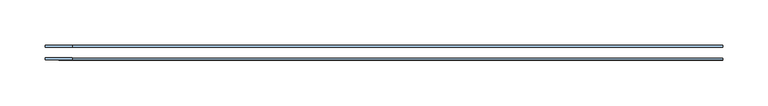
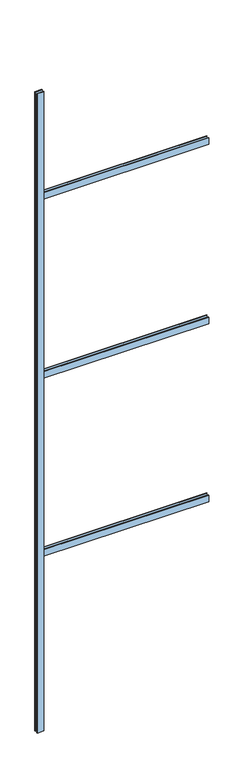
"""IFC4 building model written with IfcOpenShell, lengths in millimetres: window geometry, 32_IM_CF_verdeling_roedes : 32_IM_CF_verdeling_roedes_1x4."""

from ifc_helpers import new_model, si_unit, frame, origin, origin_with_axes, place, context, project, spatial, polyline, outline, extrude, source, transform, mapped, element, save


def window_dd9e6272(model_context):
    return source(origin(), model_context, "Body", "SweptSolid", [
        extrude(outline(polyline([(-351.5000002, 6.0), (-381.5000002, 6.0), (-381.5000002, 8.0), (-351.5000002, 8.0), (-351.5000002, 6.0)])), origin_with_axes(), (0.0, 0.0, 1.0), 2945.0),
        extrude(outline(polyline([(-381.5000002, -8.0), (-381.5000002, -6.0), (-351.5000002, -6.0), (-351.5000002, -8.0), (-381.5000002, -8.0)])), origin_with_axes(), (0.0, 0.0, 1.0), 2945.0),
        extrude(outline(polyline([(366.5000002, 8.0), (366.5000002, 6.0), (-366.5000002, 6.0), (-366.5000002, 8.0), (366.5000002, 8.0)])), frame((0.0, 0.0, 805.0), z_axis=(0.0, 0.0, 1.0), x_axis=(1.0, 0.0, 0.0)), (0.0, 0.0, 1.0), 30.0),
        extrude(outline(polyline([(366.5000002, -6.0), (366.5000002, -8.0), (-366.5000002, -8.0), (-366.5000002, -6.0), (366.5000002, -6.0)])), frame((0.0, 0.0, 805.0), z_axis=(0.0, 0.0, 1.0), x_axis=(1.0, 0.0, 0.0)), (0.0, 0.0, 1.0), 30.0),
        extrude(outline(polyline([(366.5000002, 8.0), (366.5000002, 6.0), (-366.5000002, 6.0), (-366.5000002, 8.0), (366.5000002, 8.0)])), frame((0.0, 0.0, 2450.0), z_axis=(0.0, 0.0, 1.0), x_axis=(1.0, 0.0, 0.0)), (0.0, 0.0, 1.0), 30.0),
        extrude(outline(polyline([(366.5000002, -6.0), (366.5000002, -8.0), (-366.5000002, -8.0), (-366.5000002, -6.0), (366.5000002, -6.0)])), frame((0.0, 0.0, 2450.0), z_axis=(0.0, 0.0, 1.0), x_axis=(1.0, 0.0, 0.0)), (0.0, 0.0, 1.0), 30.0),
        extrude(outline(polyline([(366.5000002, 8.0), (366.5000002, 6.0), (-366.5000002, 6.0), (-366.5000002, 8.0), (366.5000002, 8.0)])), frame((0.0, 0.0, 1625.0), z_axis=(0.0, 0.0, 1.0), x_axis=(1.0, 0.0, 0.0)), (0.0, 0.0, 1.0), 30.0),
        extrude(outline(polyline([(366.5000002, -6.0), (366.5000002, -8.0), (-366.5000002, -8.0), (-366.5000002, -6.0), (366.5000002, -6.0)])), frame((0.0, 0.0, 1625.0), z_axis=(0.0, 0.0, 1.0), x_axis=(1.0, 0.0, 0.0)), (0.0, 0.0, 1.0), 30.0),
    ])


if __name__ == "__main__":
    model = new_model("IFC4")
    model_context = context("Model", 3, world=origin())
    ifc_project = project(units=[si_unit("LENGTHUNIT", "METRE", prefix="MILLI")], contexts=[model_context])
    site = spatial("IfcSite", under=ifc_project)
    building = spatial("IfcBuilding", under=site)
    placement = place(None, origin())
    window_shape = window_dd9e6272(model_context)
    element("IfcWindow", 1, ObjectType="32_IM_CF_verdeling_roedes : 32_IM_CF_verdeling_roedes_1x4", at=placement, inside=building, context=model_context, shape_type="MappedRepresentation", body=[
        mapped(window_shape, transform((0.0, 0.0, 0.0), x_axis=(1.0, 0.0, 0.0), y_axis=(0.0, 1.0, 0.0), z_axis=(0.0, 0.0, 1.0))),
    ])
    save(model, "model.ifc")
